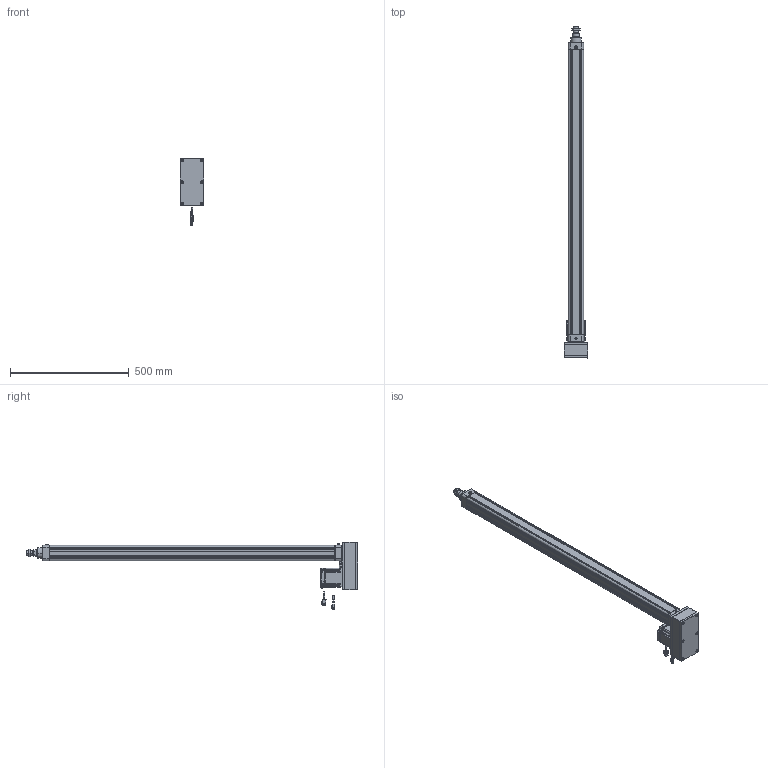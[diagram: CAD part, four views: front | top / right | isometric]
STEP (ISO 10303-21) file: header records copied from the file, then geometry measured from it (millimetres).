
FILE_DESCRIPTION((''),'2;1');
FILE_NAME('HE50-D-100-X1_ASM','2020-04-07T',('ASUS20200'),(''),'CREO PARAMETRIC BY PTC INC, 2014190','CREO PARAMETRIC BY PTC INC, 2014190','');
FILE_SCHEMA(('CONFIG_CONTROL_DESIGN'));
Length unit declared in the file: millimetre
Products named in the file (27): HE50-D-P-001-X1; HE50-D-P-002-X1; HE50-D-P-003-X1; 6301ZZ; LGLM-M8-22; SLM-01; YZ-M6X1; HE50-P-010-X1-400W; _MHMF082L1A2; _CABLE_MOTOR_TOP_05; _MOTOR_CONNECTOR_2; _CABLE_BRAKE_TOP_05; _MHMF_CONNECTOR_9_PIN_A6; MHMF082L1A2M2_1_ASM; TD-6; M6X25; LM-M6X1; JX6X6X20; M6X25-DS; LM-M6-15; HE50-P-012-X1; HE50-P-013-X1; M6X60; HE50-D-P-005-X1; HE50-D-P-004-X1; HE50-D-P-008-X1; HE50-D-100-X1_ASM
Assembly tree (48 placements, depth 3):
  HE50-D-100-X1_ASM
    HE50-D-P-001-X1
    HE50-D-P-002-X1
    HE50-D-P-003-X1
    6301ZZ
    LGLM-M8-22  x8
    SLM-01
    YZ-M6X1
    HE50-P-010-X1-400W
    MHMF082L1A2M2_1_ASM
      _MHMF082L1A2
      _CABLE_MOTOR_TOP_05
      _MOTOR_CONNECTOR_2
      _CABLE_BRAKE_TOP_05
      _MHMF_CONNECTOR_9_PIN_A6
    TD-6  x4
    M6X25  x4
    LM-M6X1  x5
    JX6X6X20
    M6X25-DS
    LM-M6-15
    HE50-P-012-X1
    HE50-P-013-X1
    M6X60  x6
    HE50-D-P-005-X1
    HE50-D-P-004-X1
    HE50-D-P-008-X1
Bounding box: 100 x 1398.5 x 283.65 mm (x, y, z)
Volume: 3478129.4 mm3; surface area: 1023110.9 mm2
Topology: 47 solids, 74 shells, 2606 faces, 6246 edges, 3874 vertices
Faces by surface type: plane 1137, cylinder 707, cone 619, torus 110, sphere 30, bspline 3
Entity records: 61762 total; most frequent: CARTESIAN_POINT 11757, DIRECTION 10929, ORIENTED_EDGE 9812, EDGE_CURVE 4950, AXIS2_PLACEMENT_3D 4053, VERTEX_POINT 3093, VECTOR 2823, LINE 2823
